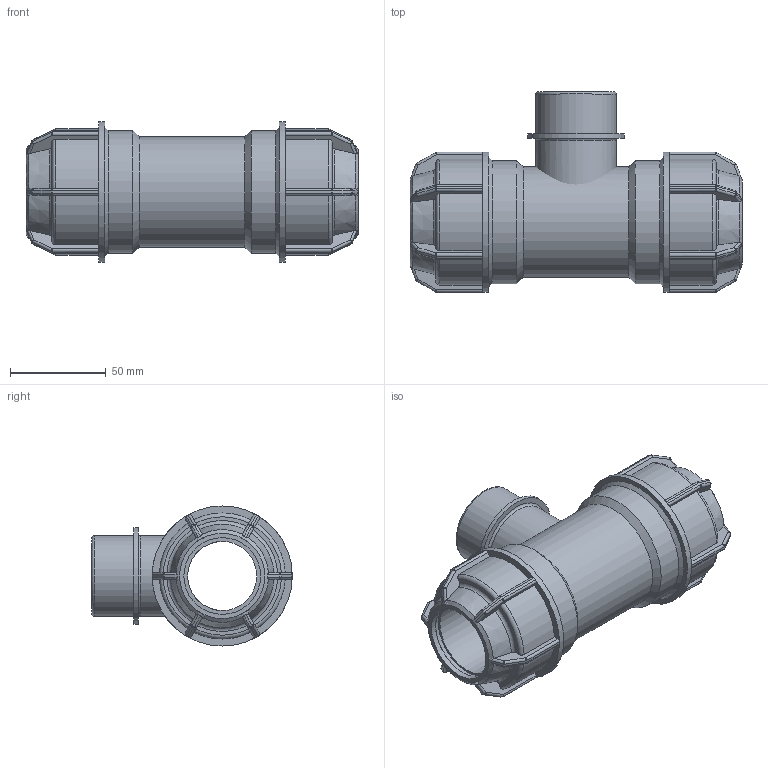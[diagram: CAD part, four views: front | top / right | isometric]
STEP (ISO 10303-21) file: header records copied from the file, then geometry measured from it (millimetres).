
FILE_DESCRIPTION(/* description */ ('PLASSON L.14 TEE MALE ADAPTOR (SILVER) 40-1.1/4"-40'),/* implementation_level */ '2;1');
FILE_NAME(/* name */ 'C:\Dropbox\KIMPROJECTS-Inventor\99-16-3568-Processing\Silver+MF ISRAEL\148400\148400040013.ipt.stp',/* time_stamp */ '2018-04-09T13:05:26+03:00',/* author */ ('KIM'),/* organization */ (''),/* preprocessor_version */ 'ST-DEVELOPER v15.6',/* originating_system */ 'Autodesk Inventor 2015',/* authorisation */ '');
FILE_SCHEMA (('AUTOMOTIVE_DESIGN { 1 0 10303 214 3 1 1 }'));
Length unit declared in the file: millimetre
Products named in the file (1): 148400040013
Bounding box: 173 x 104.5 x 73 mm (x, y, z)
Volume: 314163.6 mm3; surface area: 79728.1 mm2
Topology: 2 solids, 2 shells, 417 faces, 994 edges, 572 vertices
Faces by surface type: plane 197, cylinder 124, sphere 48, torus 30, cone 18
Full cylindrical faces by diameter (mm): 36 x3, 40 x4, 41.91 x2, 50.292 x1, 57.6 x1, 64 x2, 73 x2
Entity records: 12181 total; most frequent: CARTESIAN_POINT 3214, DIRECTION 1886, ORIENTED_EDGE 1836, EDGE_CURVE 918, AXIS2_PLACEMENT_3D 762, VERTEX_POINT 544, EDGE_LOOP 454, FACE_OUTER_BOUND 413
